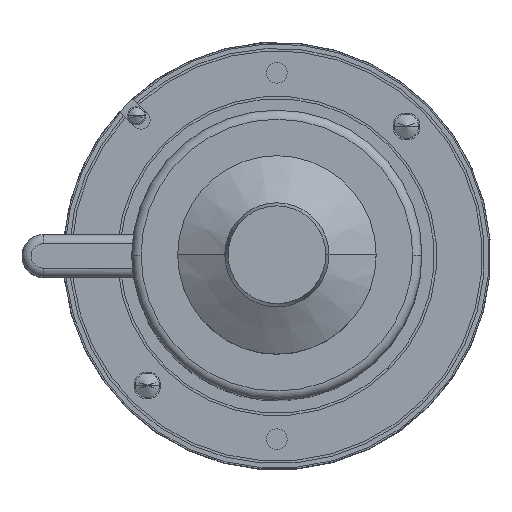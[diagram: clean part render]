
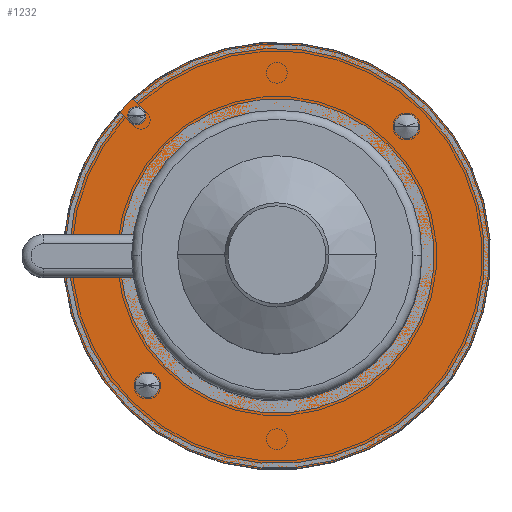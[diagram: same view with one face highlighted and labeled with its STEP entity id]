
A CAD part, top view. The second image highlights one B-rep face of the part: STEP entity #1232.
In plain terms, the highlighted planar face has unit normal (0, 0, 1).
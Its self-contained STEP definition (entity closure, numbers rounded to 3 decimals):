
#1232 = ADVANCED_FACE ( 'NONE', ( #15136, #15137, #15138, #15139 ), #18578, .F. ) ;
#3269 = EDGE_CURVE ( 'NONE', #21443, #21451, #15289, .T. ) ;
#3370 = EDGE_CURVE ( 'NONE', #21552, #21549, #9405, .T. ) ;
#3384 = EDGE_CURVE ( 'NONE', #21572, #21261, #9447, .T. ) ;
#3387 = EDGE_CURVE ( 'NONE', #21261, #21572, #9460, .T. ) ;
#3390 = EDGE_CURVE ( 'NONE', #21451, #21532, #9475, .T. ) ;
#3459 = EDGE_CURVE ( 'NONE', #21551, #21620, #9701, .T. ) ;
#3462 = EDGE_CURVE ( 'NONE', #21551, #21532, #9708, .T. ) ;
#3463 = EDGE_CURVE ( 'NONE', #21509, #21990, #9710, .T. ) ;
#3464 = EDGE_CURVE ( 'NONE', #21549, #21552, #9712, .T. ) ;
#3465 = EDGE_CURVE ( 'NONE', #21443, #21620, #9711, .T. ) ;
#3519 = AXIS2_PLACEMENT_3D ( 'NONE', #19225, #19226, #19227 ) ;
#3529 = AXIS2_PLACEMENT_3D ( 'NONE', #19258, #19259, #19260 ) ;
#3544 = AXIS2_PLACEMENT_3D ( 'NONE', #19266, #19267, #19268 ) ;
#3548 = AXIS2_PLACEMENT_3D ( 'NONE', #19274, #19275, #19276 ) ;
#3571 = AXIS2_PLACEMENT_3D ( 'NONE', #18465, #18479, #18480 ) ;
#3589 = AXIS2_PLACEMENT_3D ( 'NONE', #19485, #19486, #19487 ) ;
#3596 = AXIS2_PLACEMENT_3D ( 'NONE', #19488, #19489, #19490 ) ;
#3650 = AXIS2_PLACEMENT_3D ( 'NONE', #19475, #19476, #19477 ) ;
#4795 = ORIENTED_EDGE ( 'NONE', *, *, #3384, .F. ) ;
#4796 = ORIENTED_EDGE ( 'NONE', *, *, #3387, .F. ) ;
#4797 = ORIENTED_EDGE ( 'NONE', *, *, #3463, .F. ) ;
#4800 = ORIENTED_EDGE ( 'NONE', *, *, #22783, .F. ) ;
#4801 = ORIENTED_EDGE ( 'NONE', *, *, #3269, .F. ) ;
#4844 = ORIENTED_EDGE ( 'NONE', *, *, #3464, .F. ) ;
#4845 = ORIENTED_EDGE ( 'NONE', *, *, #3370, .F. ) ;
#4846 = ORIENTED_EDGE ( 'NONE', *, *, #3390, .F. ) ;
#4847 = ORIENTED_EDGE ( 'NONE', *, *, #3462, .T. ) ;
#4848 = ORIENTED_EDGE ( 'NONE', *, *, #3459, .F. ) ;
#4849 = ORIENTED_EDGE ( 'NONE', *, *, #3465, .T. ) ;
#5362 = EDGE_LOOP ( 'NONE', ( #4801, #4849, #4848, #4847, #4846 ) ) ;
#5364 = EDGE_LOOP ( 'NONE', ( #4795, #4796 ) ) ;
#5407 = EDGE_LOOP ( 'NONE', ( #4845, #4844 ) ) ;
#5499 = EDGE_LOOP ( 'NONE', ( #4797, #4800 ) ) ;
#9405 = CIRCLE ( 'NONE', #3519, 4. ) ;
#9447 = CIRCLE ( 'NONE', #3529, 4. ) ;
#9460 = CIRCLE ( 'NONE', #3544, 4. ) ;
#9475 = CIRCLE ( 'NONE', #3548, 47.5 ) ;
#9701 = CIRCLE ( 'NONE', #3650, 70. ) ;
#9708 = LINE ( 'NONE', #19483, #9709 ) ;
#9709 = VECTOR ( 'NONE', #19484, 1000. ) ;
#9710 = CIRCLE ( 'NONE', #3589, 3. ) ;
#9711 = LINE ( 'NONE', #19491, #9713 ) ;
#9712 = CIRCLE ( 'NONE', #3596, 4. ) ;
#9713 = VECTOR ( 'NONE', #19492, 1000. ) ;
#12682 = AXIS2_PLACEMENT_3D ( 'NONE', #17665, #17666, #17667 ) ;
#15136 = FACE_OUTER_BOUND ( 'NONE', #5362, .T. ) ;
#15137 = FACE_BOUND ( 'NONE', #5499, .T. ) ;
#15138 = FACE_BOUND ( 'NONE', #5407, .T. ) ;
#15139 = FACE_BOUND ( 'NONE', #5364, .T. ) ;
#15289 = CIRCLE ( 'NONE', #3571, 47.5 ) ;
#16767 = CARTESIAN_POINT ( 'NONE',  ( 47.5, 0., 32. ) ) ;
#16833 = CARTESIAN_POINT ( 'NONE',  ( -48.962, 45.962, 32. ) ) ;
#16859 = CARTESIAN_POINT ( 'NONE',  ( -46.981, 7., 32. ) ) ;
#16877 = CARTESIAN_POINT ( 'NONE',  ( 38.426, 42.426, 32. ) ) ;
#16879 = CARTESIAN_POINT ( 'NONE',  ( -69.649, 7., 32. ) ) ;
#16880 = CARTESIAN_POINT ( 'NONE',  ( 46.426, 42.426, 32. ) ) ;
#16902 = CARTESIAN_POINT ( 'NONE',  ( -46.426, -42.426, 32. ) ) ;
#16968 = CARTESIAN_POINT ( 'NONE',  ( -69.649, -7., 32. ) ) ;
#17350 = CARTESIAN_POINT ( 'NONE',  ( -42.962, 45.962, 32. ) ) ;
#17665 = CARTESIAN_POINT ( 'NONE',  ( -45.962, 45.962, 32. ) ) ;
#17666 = DIRECTION ( 'NONE',  ( 0., 0., 1. ) ) ;
#17667 = DIRECTION ( 'NONE',  ( -1., 0., 0. ) ) ;
#18465 = CARTESIAN_POINT ( 'NONE',  ( 0., 0., 32. ) ) ;
#18479 = DIRECTION ( 'NONE',  ( 0., 0., 1. ) ) ;
#18480 = DIRECTION ( 'NONE',  ( -1., 0., 0. ) ) ;
#18570 = DIRECTION ( 'NONE',  ( -1., 0., 0. ) ) ;
#18577 = DIRECTION ( 'NONE',  ( 0., 0., -1. ) ) ;
#18578 = PLANE ( 'NONE',  #29365 ) ;
#18579 = CARTESIAN_POINT ( 'NONE',  ( 0., 32.5, 32. ) ) ;
#19225 = CARTESIAN_POINT ( 'NONE',  ( 42.426, 42.426, 32. ) ) ;
#19226 = DIRECTION ( 'NONE',  ( 0., 0., 1. ) ) ;
#19227 = DIRECTION ( 'NONE',  ( 1., 0., 0. ) ) ;
#19258 = CARTESIAN_POINT ( 'NONE',  ( -42.426, -42.426, 32. ) ) ;
#19259 = DIRECTION ( 'NONE',  ( 0., 0., 1. ) ) ;
#19260 = DIRECTION ( 'NONE',  ( -1., 0., 0. ) ) ;
#19266 = CARTESIAN_POINT ( 'NONE',  ( -42.426, -42.426, 32. ) ) ;
#19267 = DIRECTION ( 'NONE',  ( 0., 0., 1. ) ) ;
#19268 = DIRECTION ( 'NONE',  ( -1., 0., 0. ) ) ;
#19274 = CARTESIAN_POINT ( 'NONE',  ( 0., 0., 32. ) ) ;
#19275 = DIRECTION ( 'NONE',  ( 0., 0., 1. ) ) ;
#19276 = DIRECTION ( 'NONE',  ( -1., 0., 0. ) ) ;
#19475 = CARTESIAN_POINT ( 'NONE',  ( 0., 0., 32. ) ) ;
#19476 = DIRECTION ( 'NONE',  ( 0., 0., -1. ) ) ;
#19477 = DIRECTION ( 'NONE',  ( -1., 0., 0. ) ) ;
#19483 = CARTESIAN_POINT ( 'NONE',  ( 0., 7., 32. ) ) ;
#19484 = DIRECTION ( 'NONE',  ( 1., 0., 0. ) ) ;
#19485 = CARTESIAN_POINT ( 'NONE',  ( -45.962, 45.962, 32. ) ) ;
#19486 = DIRECTION ( 'NONE',  ( 0., 0., 1. ) ) ;
#19487 = DIRECTION ( 'NONE',  ( -1., 0., 0. ) ) ;
#19488 = CARTESIAN_POINT ( 'NONE',  ( 42.426, 42.426, 32. ) ) ;
#19489 = DIRECTION ( 'NONE',  ( 0., 0., 1. ) ) ;
#19490 = DIRECTION ( 'NONE',  ( 1., 0., 0. ) ) ;
#19491 = CARTESIAN_POINT ( 'NONE',  ( 0., -7., 32. ) ) ;
#19492 = DIRECTION ( 'NONE',  ( -1., 0., 0. ) ) ;
#21261 = VERTEX_POINT ( 'NONE', #27853 ) ;
#21443 = VERTEX_POINT ( 'NONE', #27969 ) ;
#21451 = VERTEX_POINT ( 'NONE', #16767 ) ;
#21509 = VERTEX_POINT ( 'NONE', #16833 ) ;
#21532 = VERTEX_POINT ( 'NONE', #16859 ) ;
#21549 = VERTEX_POINT ( 'NONE', #16877 ) ;
#21551 = VERTEX_POINT ( 'NONE', #16879 ) ;
#21552 = VERTEX_POINT ( 'NONE', #16880 ) ;
#21572 = VERTEX_POINT ( 'NONE', #16902 ) ;
#21620 = VERTEX_POINT ( 'NONE', #16968 ) ;
#21990 = VERTEX_POINT ( 'NONE', #17350 ) ;
#22783 = EDGE_CURVE ( 'NONE', #21990, #21509, #28266, .T. ) ;
#27853 = CARTESIAN_POINT ( 'NONE',  ( -38.426, -42.426, 32. ) ) ;
#27969 = CARTESIAN_POINT ( 'NONE',  ( -46.981, -7., 32. ) ) ;
#28266 = CIRCLE ( 'NONE', #12682, 3. ) ;
#29365 = AXIS2_PLACEMENT_3D ( 'NONE', #18579, #18577, #18570 ) ;
